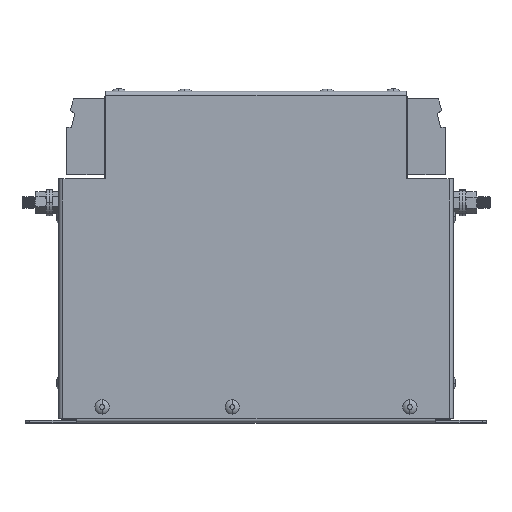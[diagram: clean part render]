
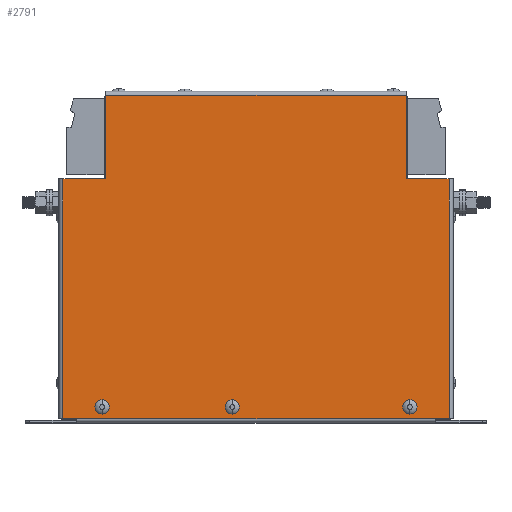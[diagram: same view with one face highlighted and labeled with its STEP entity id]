
A CAD part, top view. The second image highlights one B-rep face of the part: STEP entity #2791.
In plain terms, the highlighted planar face has unit normal (0, 0, 1).
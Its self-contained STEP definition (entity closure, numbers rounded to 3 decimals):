
#13 = LINE ( 'NONE', #8050, #12110 ) ;
#173 = CARTESIAN_POINT ( 'NONE',  ( -63.5, 32.75, 0. ) ) ;
#384 = VERTEX_POINT ( 'NONE', #1270 ) ;
#473 = CARTESIAN_POINT ( 'NONE',  ( 82., 32.75, 0. ) ) ;
#562 = VERTEX_POINT ( 'NONE', #9723 ) ;
#699 = CARTESIAN_POINT ( 'NONE',  ( -82., -68.55, 0. ) ) ;
#885 = VERTEX_POINT ( 'NONE', #8001 ) ;
#961 = VERTEX_POINT ( 'NONE', #173 ) ;
#982 = CARTESIAN_POINT ( 'NONE',  ( -63.25, -63.55, 0. ) ) ;
#1154 = EDGE_LOOP ( 'NONE', ( #2332, #2369 ) ) ;
#1213 = EDGE_CURVE ( 'NONE', #7525, #961, #12448, .T. ) ;
#1270 = CARTESIAN_POINT ( 'NONE',  ( 81.5, -68.55, 0. ) ) ;
#1297 = ORIENTED_EDGE ( 'NONE', *, *, #14012, .T. ) ;
#1378 = CIRCLE ( 'NONE', #7169, 1.75 ) ;
#1499 = VECTOR ( 'NONE', #3048, 1000. ) ;
#1525 = DIRECTION ( 'NONE',  ( 0., 1., 0. ) ) ;
#1594 = CARTESIAN_POINT ( 'NONE',  ( 0., 0., 0. ) ) ;
#1642 = DIRECTION ( 'NONE',  ( 0., 0., 1. ) ) ;
#1709 = VERTEX_POINT ( 'NONE', #15127 ) ;
#1723 = CARTESIAN_POINT ( 'NONE',  ( -63.5, 68.55, 0. ) ) ;
#1799 = ORIENTED_EDGE ( 'NONE', *, *, #5744, .F. ) ;
#2237 = VERTEX_POINT ( 'NONE', #11490 ) ;
#2332 = ORIENTED_EDGE ( 'NONE', *, *, #4327, .F. ) ;
#2369 = ORIENTED_EDGE ( 'NONE', *, *, #7860, .F. ) ;
#2413 = FACE_OUTER_BOUND ( 'NONE', #8607, .T. ) ;
#2677 = ORIENTED_EDGE ( 'NONE', *, *, #9163, .F. ) ;
#2746 = LINE ( 'NONE', #10398, #7509 ) ;
#2777 = ORIENTED_EDGE ( 'NONE', *, *, #1213, .F. ) ;
#2791 = ADVANCED_FACE ( 'NONE', ( #3326, #8829, #11783, #2413 ), #4047, .T. ) ;
#2888 = CIRCLE ( 'NONE', #12582, 1.75 ) ;
#2957 = DIRECTION ( 'NONE',  ( 0., 0., 1. ) ) ;
#3040 = EDGE_LOOP ( 'NONE', ( #3339, #14166 ) ) ;
#3048 = DIRECTION ( 'NONE',  ( 1., 0., 0. ) ) ;
#3183 = CIRCLE ( 'NONE', #11933, 1.75 ) ;
#3193 = CARTESIAN_POINT ( 'NONE',  ( -66.75, -63.55, 0. ) ) ;
#3289 = DIRECTION ( 'NONE',  ( 0., -1., 0. ) ) ;
#3326 = FACE_BOUND ( 'NONE', #3040, .T. ) ;
#3336 = DIRECTION ( 'NONE',  ( 0., 0., 1. ) ) ;
#3339 = ORIENTED_EDGE ( 'NONE', *, *, #13355, .F. ) ;
#3395 = DIRECTION ( 'NONE',  ( 0., 0., 1. ) ) ;
#3424 = CARTESIAN_POINT ( 'NONE',  ( -8.25, -63.55, 0. ) ) ;
#3558 = LINE ( 'NONE', #473, #9436 ) ;
#3700 = AXIS2_PLACEMENT_3D ( 'NONE', #12256, #1642, #13380 ) ;
#3786 = EDGE_CURVE ( 'NONE', #7516, #384, #13791, .T. ) ;
#3900 = VERTEX_POINT ( 'NONE', #982 ) ;
#3903 = LINE ( 'NONE', #1723, #7004 ) ;
#4046 = DIRECTION ( 'NONE',  ( 0., 0., 1. ) ) ;
#4047 = PLANE ( 'NONE',  #12469 ) ;
#4214 = AXIS2_PLACEMENT_3D ( 'NONE', #10361, #3395, #6815 ) ;
#4327 = EDGE_CURVE ( 'NONE', #562, #1709, #5512, .T. ) ;
#4460 = CARTESIAN_POINT ( 'NONE',  ( -65., -63.55, 0. ) ) ;
#4945 = EDGE_CURVE ( 'NONE', #15143, #7081, #13, .T. ) ;
#4990 = VERTEX_POINT ( 'NONE', #3193 ) ;
#5132 = ORIENTED_EDGE ( 'NONE', *, *, #3786, .T. ) ;
#5172 = ORIENTED_EDGE ( 'NONE', *, *, #9850, .T. ) ;
#5232 = LINE ( 'NONE', #9159, #9649 ) ;
#5310 = CARTESIAN_POINT ( 'NONE',  ( -81.5, -68.55, 0. ) ) ;
#5512 = CIRCLE ( 'NONE', #3700, 1.75 ) ;
#5713 = VECTOR ( 'NONE', #9239, 1000. ) ;
#5744 = EDGE_CURVE ( 'NONE', #12833, #14781, #9704, .T. ) ;
#5899 = LINE ( 'NONE', #11472, #5713 ) ;
#6283 = DIRECTION ( 'NONE',  ( 1., 0., 0. ) ) ;
#6431 = CARTESIAN_POINT ( 'NONE',  ( 65., -63.55, 0. ) ) ;
#6516 = CARTESIAN_POINT ( 'NONE',  ( -10., -63.55, 0. ) ) ;
#6815 = DIRECTION ( 'NONE',  ( 1., 0., 0. ) ) ;
#7004 = VECTOR ( 'NONE', #1525, 1000. ) ;
#7081 = VERTEX_POINT ( 'NONE', #10841 ) ;
#7169 = AXIS2_PLACEMENT_3D ( 'NONE', #6431, #4046, #11137 ) ;
#7463 = ORIENTED_EDGE ( 'NONE', *, *, #4945, .F. ) ;
#7509 = VECTOR ( 'NONE', #9270, 1000. ) ;
#7516 = VERTEX_POINT ( 'NONE', #5310 ) ;
#7525 = VERTEX_POINT ( 'NONE', #8811 ) ;
#7860 = EDGE_CURVE ( 'NONE', #1709, #562, #1378, .T. ) ;
#8001 = CARTESIAN_POINT ( 'NONE',  ( 81.5, 32.75, 0. ) ) ;
#8050 = CARTESIAN_POINT ( 'NONE',  ( 63.5, 68.55, 0. ) ) ;
#8369 = EDGE_CURVE ( 'NONE', #7081, #885, #3558, .T. ) ;
#8607 = EDGE_LOOP ( 'NONE', ( #2777, #5172, #5132, #14060, #14661, #7463, #1297, #13812 ) ) ;
#8811 = CARTESIAN_POINT ( 'NONE',  ( -81.5, 32.75, 0. ) ) ;
#8829 = FACE_BOUND ( 'NONE', #1154, .T. ) ;
#9151 = EDGE_CURVE ( 'NONE', #961, #2237, #3903, .T. ) ;
#9159 = CARTESIAN_POINT ( 'NONE',  ( 63.5, 68.05, 0. ) ) ;
#9163 = EDGE_CURVE ( 'NONE', #14781, #12833, #3183, .T. ) ;
#9239 = DIRECTION ( 'NONE',  ( 0., -1., 0. ) ) ;
#9270 = DIRECTION ( 'NONE',  ( 0., 1., 0. ) ) ;
#9308 = VECTOR ( 'NONE', #10141, 1000. ) ;
#9329 = DIRECTION ( 'NONE',  ( 1., 0., 0. ) ) ;
#9436 = VECTOR ( 'NONE', #12160, 1000. ) ;
#9649 = VECTOR ( 'NONE', #13877, 1000. ) ;
#9704 = CIRCLE ( 'NONE', #13651, 1.75 ) ;
#9723 = CARTESIAN_POINT ( 'NONE',  ( 66.75, -63.55, 0. ) ) ;
#9814 = EDGE_CURVE ( 'NONE', #4990, #3900, #10492, .T. ) ;
#9850 = EDGE_CURVE ( 'NONE', #7525, #7516, #5899, .T. ) ;
#10141 = DIRECTION ( 'NONE',  ( 1., 0., 0. ) ) ;
#10169 = DIRECTION ( 'NONE',  ( 1., 0., 0. ) ) ;
#10361 = CARTESIAN_POINT ( 'NONE',  ( -65., -63.55, 0. ) ) ;
#10376 = CARTESIAN_POINT ( 'NONE',  ( 63.5, 68.05, 0. ) ) ;
#10398 = CARTESIAN_POINT ( 'NONE',  ( 81.5, -68.55, 0. ) ) ;
#10492 = CIRCLE ( 'NONE', #4214, 1.75 ) ;
#10841 = CARTESIAN_POINT ( 'NONE',  ( 63.5, 32.75, 0. ) ) ;
#11137 = DIRECTION ( 'NONE',  ( 1., 0., 0. ) ) ;
#11337 = CARTESIAN_POINT ( 'NONE',  ( -82., 32.75, 0. ) ) ;
#11472 = CARTESIAN_POINT ( 'NONE',  ( -81.5, 32.75, 0. ) ) ;
#11479 = CARTESIAN_POINT ( 'NONE',  ( -11.75, -63.55, 0. ) ) ;
#11490 = CARTESIAN_POINT ( 'NONE',  ( -63.5, 68.05, 0. ) ) ;
#11604 = DIRECTION ( 'NONE',  ( 0., 0., 1. ) ) ;
#11647 = EDGE_CURVE ( 'NONE', #384, #885, #2746, .T. ) ;
#11783 = FACE_BOUND ( 'NONE', #12959, .T. ) ;
#11933 = AXIS2_PLACEMENT_3D ( 'NONE', #6516, #2957, #10169 ) ;
#12110 = VECTOR ( 'NONE', #3289, 1000. ) ;
#12160 = DIRECTION ( 'NONE',  ( 1., 0., 0. ) ) ;
#12256 = CARTESIAN_POINT ( 'NONE',  ( 65., -63.55, 0. ) ) ;
#12448 = LINE ( 'NONE', #11337, #9308 ) ;
#12469 = AXIS2_PLACEMENT_3D ( 'NONE', #1594, #14570, #6283 ) ;
#12582 = AXIS2_PLACEMENT_3D ( 'NONE', #4460, #11604, #9329 ) ;
#12833 = VERTEX_POINT ( 'NONE', #11479 ) ;
#12959 = EDGE_LOOP ( 'NONE', ( #2677, #1799 ) ) ;
#13355 = EDGE_CURVE ( 'NONE', #3900, #4990, #2888, .T. ) ;
#13380 = DIRECTION ( 'NONE',  ( 1., 0., 0. ) ) ;
#13651 = AXIS2_PLACEMENT_3D ( 'NONE', #13952, #3336, #15132 ) ;
#13791 = LINE ( 'NONE', #699, #1499 ) ;
#13812 = ORIENTED_EDGE ( 'NONE', *, *, #9151, .F. ) ;
#13877 = DIRECTION ( 'NONE',  ( -1., 0., 0. ) ) ;
#13952 = CARTESIAN_POINT ( 'NONE',  ( -10., -63.55, 0. ) ) ;
#14012 = EDGE_CURVE ( 'NONE', #15143, #2237, #5232, .T. ) ;
#14060 = ORIENTED_EDGE ( 'NONE', *, *, #11647, .T. ) ;
#14166 = ORIENTED_EDGE ( 'NONE', *, *, #9814, .F. ) ;
#14570 = DIRECTION ( 'NONE',  ( 0., 0., 1. ) ) ;
#14661 = ORIENTED_EDGE ( 'NONE', *, *, #8369, .F. ) ;
#14781 = VERTEX_POINT ( 'NONE', #3424 ) ;
#15127 = CARTESIAN_POINT ( 'NONE',  ( 63.25, -63.55, 0. ) ) ;
#15132 = DIRECTION ( 'NONE',  ( 1., 0., 0. ) ) ;
#15143 = VERTEX_POINT ( 'NONE', #10376 ) ;
